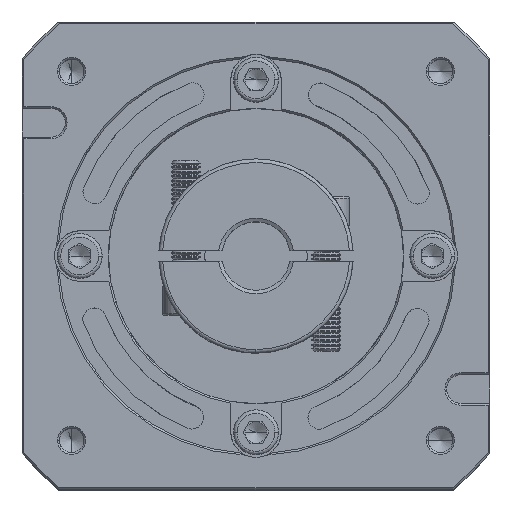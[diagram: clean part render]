
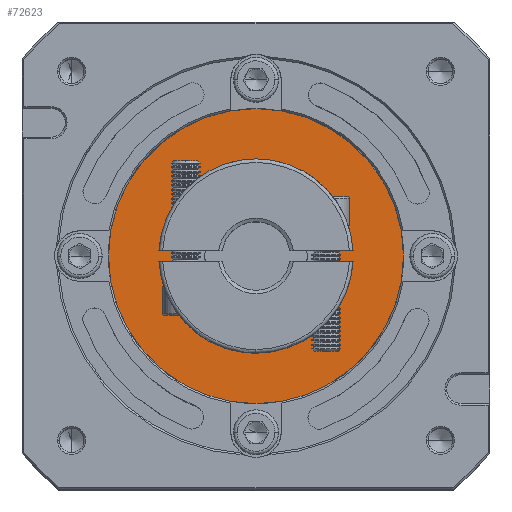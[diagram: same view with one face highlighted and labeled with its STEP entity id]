
A CAD part, top view. The second image highlights one B-rep face of the part: STEP entity #72623.
In plain terms, the highlighted planar face has unit normal (0, 0, 1).
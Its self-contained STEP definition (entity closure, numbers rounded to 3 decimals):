
#458 = DIRECTION ( 'NONE',  ( 1., 0., 0. ) ) ;
#6269 = AXIS2_PLACEMENT_3D ( 'NONE', #19813, #84084, #29053 ) ;
#11642 = CARTESIAN_POINT ( 'NONE',  ( 114.051, 102.547, -40.936 ) ) ;
#16219 = AXIS2_PLACEMENT_3D ( 'NONE', #87661, #68841, #41894 ) ;
#19149 = VERTEX_POINT ( 'NONE', #26979 ) ;
#19813 = CARTESIAN_POINT ( 'NONE',  ( 73.051, 102.547, -40.936 ) ) ;
#24542 = PLANE ( 'NONE',  #46927 ) ;
#26979 = CARTESIAN_POINT ( 'NONE',  ( 32.051, 102.547, -40.936 ) ) ;
#27139 = CARTESIAN_POINT ( 'NONE',  ( 93.051, 102.547, -40.936 ) ) ;
#29053 = DIRECTION ( 'NONE',  ( 1., 0., 0. ) ) ;
#31524 = CARTESIAN_POINT ( 'NONE',  ( 73.051, 102.547, -40.936 ) ) ;
#36012 = DIRECTION ( 'NONE',  ( 0., 0., 1. ) ) ;
#41394 = VERTEX_POINT ( 'NONE', #27139 ) ;
#41894 = DIRECTION ( 'NONE',  ( 1., 0., 0. ) ) ;
#43388 = CIRCLE ( 'NONE', #100338, 41. ) ;
#45344 = DIRECTION ( 'NONE',  ( 1., 0., 0. ) ) ;
#46927 = AXIS2_PLACEMENT_3D ( 'NONE', #118805, #53493, #45344 ) ;
#47689 = EDGE_CURVE ( 'NONE', #19149, #112273, #71646, .T. ) ;
#49723 = ORIENTED_EDGE ( 'NONE', *, *, #47689, .T. ) ;
#50196 = ORIENTED_EDGE ( 'NONE', *, *, #103307, .T. ) ;
#51866 = EDGE_CURVE ( 'NONE', #41394, #114991, #71362, .T. ) ;
#53493 = DIRECTION ( 'NONE',  ( 0., 0., 1. ) ) ;
#56162 = EDGE_LOOP ( 'NONE', ( #74818, #49723 ) ) ;
#57162 = CIRCLE ( 'NONE', #16219, 20. ) ;
#62118 = DIRECTION ( 'NONE',  ( 0., 0., -1. ) ) ;
#65029 = ORIENTED_EDGE ( 'NONE', *, *, #51866, .T. ) ;
#68841 = DIRECTION ( 'NONE',  ( 0., 0., -1. ) ) ;
#71362 = CIRCLE ( 'NONE', #105574, 20. ) ;
#71646 = CIRCLE ( 'NONE', #6269, 41. ) ;
#72623 = ADVANCED_FACE ( 'NONE', ( #118207, #93851 ), #24542, .T. ) ;
#74818 = ORIENTED_EDGE ( 'NONE', *, *, #113837, .T. ) ;
#84084 = DIRECTION ( 'NONE',  ( 0., 0., 1. ) ) ;
#87661 = CARTESIAN_POINT ( 'NONE',  ( 73.051, 102.547, -40.936 ) ) ;
#91075 = CARTESIAN_POINT ( 'NONE',  ( 73.051, 102.547, -40.936 ) ) ;
#93851 = FACE_BOUND ( 'NONE', #106008, .T. ) ;
#100303 = DIRECTION ( 'NONE',  ( 1., 0., 0. ) ) ;
#100338 = AXIS2_PLACEMENT_3D ( 'NONE', #91075, #36012, #100303 ) ;
#103307 = EDGE_CURVE ( 'NONE', #114991, #41394, #57162, .T. ) ;
#105574 = AXIS2_PLACEMENT_3D ( 'NONE', #31524, #62118, #458 ) ;
#106008 = EDGE_LOOP ( 'NONE', ( #65029, #50196 ) ) ;
#106508 = CARTESIAN_POINT ( 'NONE',  ( 53.051, 102.547, -40.936 ) ) ;
#112273 = VERTEX_POINT ( 'NONE', #11642 ) ;
#113837 = EDGE_CURVE ( 'NONE', #112273, #19149, #43388, .T. ) ;
#114991 = VERTEX_POINT ( 'NONE', #106508 ) ;
#118207 = FACE_OUTER_BOUND ( 'NONE', #56162, .T. ) ;
#118805 = CARTESIAN_POINT ( 'NONE',  ( 73.051, 102.547, -40.936 ) ) ;
